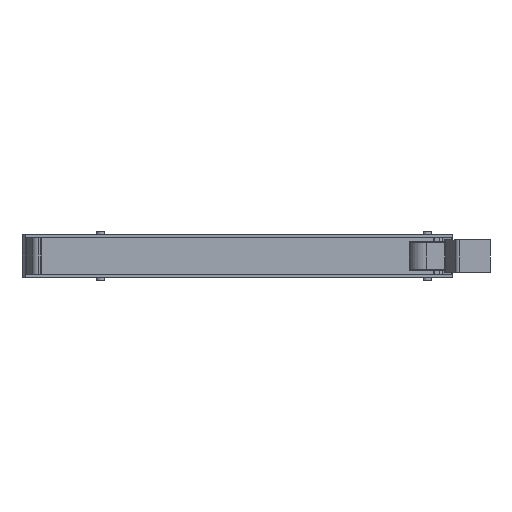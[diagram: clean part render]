
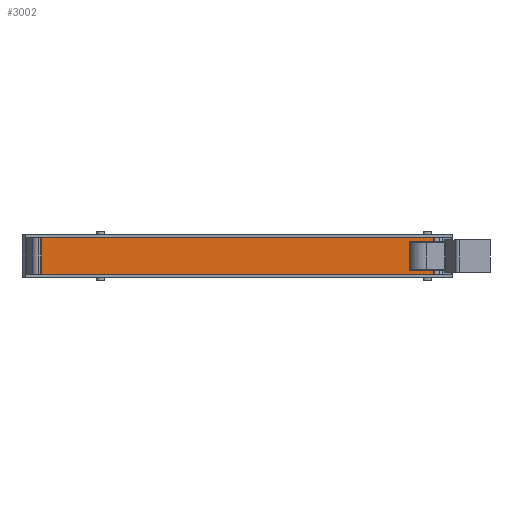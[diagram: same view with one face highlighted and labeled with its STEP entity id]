
A CAD part, front view. The second image highlights one B-rep face of the part: STEP entity #3002.
In plain terms, the highlighted planar face has unit normal (0, -1, 0).
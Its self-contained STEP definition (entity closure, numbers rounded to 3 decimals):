
#55 = LINE ( 'NONE', #820, #3837 ) ;
#341 = CARTESIAN_POINT ( 'NONE',  ( -113.5, -59.5, 1.7 ) ) ;
#430 = CARTESIAN_POINT ( 'NONE',  ( 117., -59.5, 1.7 ) ) ;
#524 = FACE_OUTER_BOUND ( 'NONE', #2562, .T. ) ;
#534 = EDGE_CURVE ( 'NONE', #4265, #2381, #1252, .T. ) ;
#638 = CARTESIAN_POINT ( 'NONE',  ( 117., -59.5, 23.3 ) ) ;
#677 = EDGE_CURVE ( 'NONE', #1781, #2381, #1567, .T. ) ;
#728 = DIRECTION ( 'NONE',  ( 0., 0., 1. ) ) ;
#820 = CARTESIAN_POINT ( 'NONE',  ( -113.5, -59.5, 1.7 ) ) ;
#1012 = EDGE_CURVE ( 'NONE', #2564, #4265, #2503, .T. ) ;
#1020 = ORIENTED_EDGE ( 'NONE', *, *, #1012, .F. ) ;
#1145 = ORIENTED_EDGE ( 'NONE', *, *, #677, .T. ) ;
#1212 = ORIENTED_EDGE ( 'NONE', *, *, #1839, .F. ) ;
#1252 = LINE ( 'NONE', #4599, #3083 ) ;
#1414 = VECTOR ( 'NONE', #3306, 1000. ) ;
#1442 = DIRECTION ( 'NONE',  ( 0., -1., 0. ) ) ;
#1446 = VECTOR ( 'NONE', #728, 1000. ) ;
#1567 = LINE ( 'NONE', #2588, #1446 ) ;
#1598 = ORIENTED_EDGE ( 'NONE', *, *, #534, .F. ) ;
#1781 = VERTEX_POINT ( 'NONE', #430 ) ;
#1839 = EDGE_CURVE ( 'NONE', #1781, #2564, #55, .T. ) ;
#2290 = CARTESIAN_POINT ( 'NONE',  ( -113.5, -59.5, 23.3 ) ) ;
#2381 = VERTEX_POINT ( 'NONE', #638 ) ;
#2503 = LINE ( 'NONE', #2596, #1414 ) ;
#2533 = CARTESIAN_POINT ( 'NONE',  ( -113.5, -59.5, -249.682 ) ) ;
#2562 = EDGE_LOOP ( 'NONE', ( #1020, #1212, #1145, #1598 ) ) ;
#2564 = VERTEX_POINT ( 'NONE', #341 ) ;
#2588 = CARTESIAN_POINT ( 'NONE',  ( 117., -59.5, -249.682 ) ) ;
#2596 = CARTESIAN_POINT ( 'NONE',  ( -113.5, -59.5, -249.682 ) ) ;
#2651 = DIRECTION ( 'NONE',  ( -1., 0., 0. ) ) ;
#2939 = AXIS2_PLACEMENT_3D ( 'NONE', #2533, #1442, #3979 ) ;
#3002 = ADVANCED_FACE ( 'NONE', ( #524 ), #3625, .T. ) ;
#3083 = VECTOR ( 'NONE', #4245, 1000. ) ;
#3306 = DIRECTION ( 'NONE',  ( 0., 0., 1. ) ) ;
#3625 = PLANE ( 'NONE',  #2939 ) ;
#3837 = VECTOR ( 'NONE', #2651, 1000. ) ;
#3979 = DIRECTION ( 'NONE',  ( 0., 0., -1. ) ) ;
#4245 = DIRECTION ( 'NONE',  ( 1., 0., 0. ) ) ;
#4265 = VERTEX_POINT ( 'NONE', #2290 ) ;
#4599 = CARTESIAN_POINT ( 'NONE',  ( -113.5, -59.5, 23.3 ) ) ;
